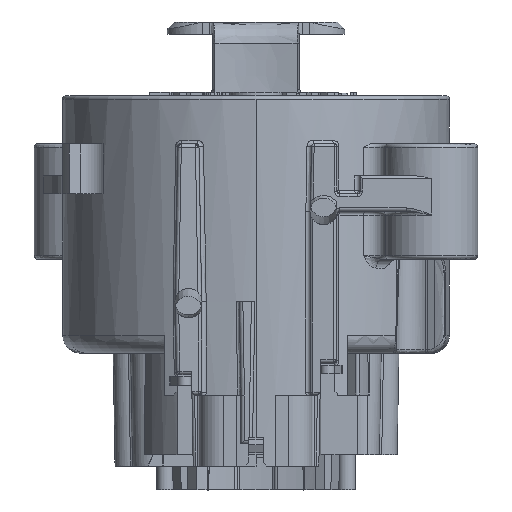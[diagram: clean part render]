
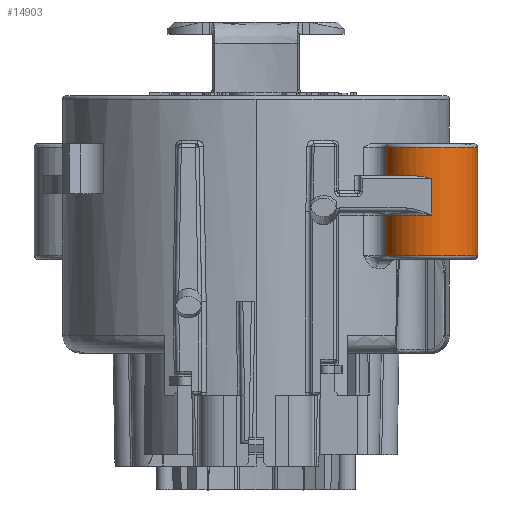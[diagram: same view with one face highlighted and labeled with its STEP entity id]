
A CAD part, front view. The second image highlights one B-rep face of the part: STEP entity #14903.
In plain terms, the highlighted cylindrical face has radius 2.6 mm (diameter 5.2 mm), a partial arc.
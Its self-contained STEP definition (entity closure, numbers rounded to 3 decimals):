
#381 = CARTESIAN_POINT ( 'NONE',  ( 12.5, 2.6, 0.05 ) ) ;
#1645 = CARTESIAN_POINT ( 'NONE',  ( 9.9, 2.6, 4.54 ) ) ;
#2152 = CARTESIAN_POINT ( 'NONE',  ( 7.3, 2.6, 2.34 ) ) ;
#2422 = DIRECTION ( 'NONE',  ( 0., 0., 1. ) ) ;
#2712 = EDGE_CURVE ( 'NONE', #44122, #21790, #41241, .T. ) ;
#2810 = CARTESIAN_POINT ( 'NONE',  ( 9.443, 0.04, 4.492 ) ) ;
#2869 = VERTEX_POINT ( 'NONE', #14808 ) ;
#2906 = EDGE_CURVE ( 'NONE', #27308, #23066, #6098, .T. ) ;
#3056 = CARTESIAN_POINT ( 'NONE',  ( 9.457, 0.038, 4.49 ) ) ;
#4065 = ORIENTED_EDGE ( 'NONE', *, *, #31060, .T. ) ;
#4334 = DIRECTION ( 'NONE',  ( 0., 0., 1. ) ) ;
#4440 = AXIS2_PLACEMENT_3D ( 'NONE', #21317, #2422, #32431 ) ;
#4638 = B_SPLINE_CURVE_WITH_KNOTS ( 'NONE', 3,
 ( #9608, #24380, #46892, #13702, #39380, #32103, #28740, #39130, #2810, #10108, #3056, #14182, #46653, #6700, #28968 ),
 .UNSPECIFIED., .F., .F.,
 ( 4, 2, 2, 1, 1, 1, 2, 2, 4 ),
 ( 0., 0.25, 0.375, 0.437, 0.469, 0.484, 0.492, 0.5, 1. ),
 .UNSPECIFIED. ) ;
#4836 = CARTESIAN_POINT ( 'NONE',  ( 7.3, 2.6, 4.54 ) ) ;
#6098 = CIRCLE ( 'NONE', #13825, 2.6 ) ;
#6700 = CARTESIAN_POINT ( 'NONE',  ( 9.702, 0., 4.437 ) ) ;
#9220 = CARTESIAN_POINT ( 'NONE',  ( 12.5, 2.6, 6.15 ) ) ;
#9608 = CARTESIAN_POINT ( 'NONE',  ( 9.03, 0.15, 4.54 ) ) ;
#10108 = CARTESIAN_POINT ( 'NONE',  ( 9.451, 0.039, 4.491 ) ) ;
#10526 = DIRECTION ( 'NONE',  ( 0., 0., 1. ) ) ;
#10567 = VERTEX_POINT ( 'NONE', #41823 ) ;
#10940 = ORIENTED_EDGE ( 'NONE', *, *, #12101, .T. ) ;
#12101 = EDGE_CURVE ( 'NONE', #23066, #16397, #46427, .T. ) ;
#12432 = CARTESIAN_POINT ( 'NONE',  ( 7.3, 2.6, 6.35 ) ) ;
#13602 = VECTOR ( 'NONE', #10526, 1000. ) ;
#13702 = CARTESIAN_POINT ( 'NONE',  ( 9.259, 0.08, 4.523 ) ) ;
#13825 = AXIS2_PLACEMENT_3D ( 'NONE', #15045, #32724, #37080 ) ;
#14182 = CARTESIAN_POINT ( 'NONE',  ( 9.461, 0.037, 4.489 ) ) ;
#14798 = ORIENTED_EDGE ( 'NONE', *, *, #40346, .F. ) ;
#14808 = CARTESIAN_POINT ( 'NONE',  ( 9.03, 0.15, 4.54 ) ) ;
#14903 = ADVANCED_FACE ( 'NONE', ( #24201 ), #47203, .T. ) ;
#15045 = CARTESIAN_POINT ( 'NONE',  ( 9.9, 2.6, 0.05 ) ) ;
#15426 = DIRECTION ( 'NONE',  ( 0., 0., -1. ) ) ;
#15898 = LINE ( 'NONE', #30428, #20819 ) ;
#16397 = VERTEX_POINT ( 'NONE', #9220 ) ;
#16570 = EDGE_CURVE ( 'NONE', #21790, #16397, #22222, .T. ) ;
#16676 = CARTESIAN_POINT ( 'NONE',  ( 9.9, 0., 4.39 ) ) ;
#16774 = ORIENTED_EDGE ( 'NONE', *, *, #24171, .T. ) ;
#17730 = EDGE_CURVE ( 'NONE', #27308, #18166, #45002, .T. ) ;
#18166 = VERTEX_POINT ( 'NONE', #2152 ) ;
#19004 = VERTEX_POINT ( 'NONE', #16676 ) ;
#20819 = VECTOR ( 'NONE', #15426, 1000. ) ;
#21072 = DIRECTION ( 'NONE',  ( 0., 0., 1. ) ) ;
#21317 = CARTESIAN_POINT ( 'NONE',  ( 9.9, 2.6, 6.15 ) ) ;
#21790 = VERTEX_POINT ( 'NONE', #33332 ) ;
#22222 = CIRCLE ( 'NONE', #4440, 2.6 ) ;
#23066 = VERTEX_POINT ( 'NONE', #381 ) ;
#24171 = EDGE_CURVE ( 'NONE', #2869, #19004, #4638, .T. ) ;
#24201 = FACE_OUTER_BOUND ( 'NONE', #28399, .T. ) ;
#24380 = CARTESIAN_POINT ( 'NONE',  ( 9.087, 0.13, 4.54 ) ) ;
#25400 = VECTOR ( 'NONE', #4334, 1000. ) ;
#26068 = ORIENTED_EDGE ( 'NONE', *, *, #17730, .F. ) ;
#26699 = ORIENTED_EDGE ( 'NONE', *, *, #16570, .F. ) ;
#27308 = VERTEX_POINT ( 'NONE', #28774 ) ;
#27397 = EDGE_CURVE ( 'NONE', #19004, #10567, #15898, .T. ) ;
#28399 = EDGE_LOOP ( 'NONE', ( #26068, #47408, #10940, #26699, #31159, #14798, #16774, #28441, #4065 ) ) ;
#28441 = ORIENTED_EDGE ( 'NONE', *, *, #27397, .T. ) ;
#28740 = CARTESIAN_POINT ( 'NONE',  ( 9.387, 0.051, 4.503 ) ) ;
#28774 = CARTESIAN_POINT ( 'NONE',  ( 7.3, 2.6, 0.05 ) ) ;
#28794 = DIRECTION ( 'NONE',  ( 1., 0., 0. ) ) ;
#28954 = CIRCLE ( 'NONE', #45947, 2.6 ) ;
#28968 = CARTESIAN_POINT ( 'NONE',  ( 9.9, 0., 4.39 ) ) ;
#29321 = AXIS2_PLACEMENT_3D ( 'NONE', #1645, #33838, #34555 ) ;
#29657 = DIRECTION ( 'NONE',  ( 0., -1., 0. ) ) ;
#30428 = CARTESIAN_POINT ( 'NONE',  ( 9.9, 0., 4.39 ) ) ;
#30827 = DIRECTION ( 'NONE',  ( 0., 0., 1. ) ) ;
#31060 = EDGE_CURVE ( 'NONE', #10567, #18166, #28954, .T. ) ;
#31159 = ORIENTED_EDGE ( 'NONE', *, *, #2712, .F. ) ;
#32103 = CARTESIAN_POINT ( 'NONE',  ( 9.357, 0.057, 4.508 ) ) ;
#32431 = DIRECTION ( 'NONE',  ( -0.999, 0.051, 0. ) ) ;
#32724 = DIRECTION ( 'NONE',  ( 0., 0., 1. ) ) ;
#33332 = CARTESIAN_POINT ( 'NONE',  ( 7.3, 2.6, 6.15 ) ) ;
#33838 = DIRECTION ( 'NONE',  ( 0., 0., -1. ) ) ;
#34555 = DIRECTION ( 'NONE',  ( -0.335, -0.942, 0. ) ) ;
#36922 = CARTESIAN_POINT ( 'NONE',  ( 9.9, 2.6, 2.34 ) ) ;
#37017 = VECTOR ( 'NONE', #30827, 1000. ) ;
#37080 = DIRECTION ( 'NONE',  ( -0.999, 0.051, 0. ) ) ;
#38612 = CIRCLE ( 'NONE', #29321, 2.6 ) ;
#39130 = CARTESIAN_POINT ( 'NONE',  ( 9.424, 0.044, 4.496 ) ) ;
#39197 = CARTESIAN_POINT ( 'NONE',  ( 9.9, 2.6, 6.35 ) ) ;
#39380 = CARTESIAN_POINT ( 'NONE',  ( 9.297, 0.071, 4.518 ) ) ;
#39803 = CARTESIAN_POINT ( 'NONE',  ( 12.5, 2.6, 6.35 ) ) ;
#40346 = EDGE_CURVE ( 'NONE', #2869, #44122, #38612, .T. ) ;
#41137 = CARTESIAN_POINT ( 'NONE',  ( 7.3, 2.6, 6.35 ) ) ;
#41241 = LINE ( 'NONE', #12432, #37017 ) ;
#41823 = CARTESIAN_POINT ( 'NONE',  ( 9.9, 0., 2.34 ) ) ;
#42174 = AXIS2_PLACEMENT_3D ( 'NONE', #39197, #21072, #28794 ) ;
#44122 = VERTEX_POINT ( 'NONE', #4836 ) ;
#44907 = DIRECTION ( 'NONE',  ( 0., 0., -1. ) ) ;
#45002 = LINE ( 'NONE', #41137, #25400 ) ;
#45947 = AXIS2_PLACEMENT_3D ( 'NONE', #36922, #44907, #29657 ) ;
#46427 = LINE ( 'NONE', #39803, #13602 ) ;
#46653 = CARTESIAN_POINT ( 'NONE',  ( 9.557, 0.021, 4.47 ) ) ;
#46892 = CARTESIAN_POINT ( 'NONE',  ( 9.151, 0.109, 4.536 ) ) ;
#47203 = CYLINDRICAL_SURFACE ( 'NONE', #42174, 2.6 ) ;
#47408 = ORIENTED_EDGE ( 'NONE', *, *, #2906, .T. ) ;
